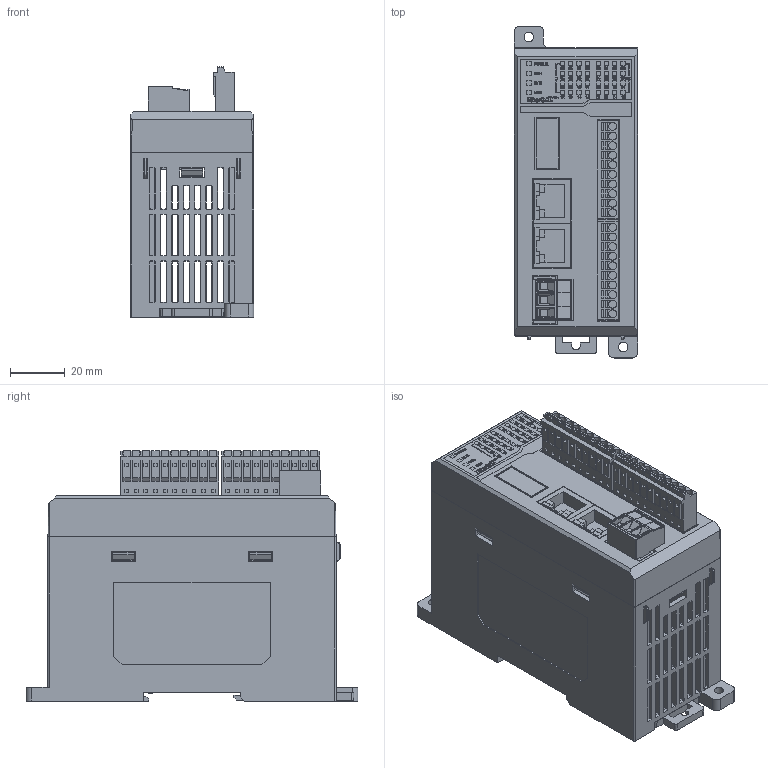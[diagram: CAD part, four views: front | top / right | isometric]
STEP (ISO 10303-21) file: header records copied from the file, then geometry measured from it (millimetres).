
FILE_DESCRIPTION((''),'2;1');
FILE_NAME('RXEC_ASM','2023-07-21T14:50:57',('Lenovo'),(''),'CREO PARAMETRIC BY PTC INC, 2020033','CREO PARAMETRIC BY PTC INC, 2020033','');
FILE_SCHEMA(('CONFIG_CONTROL_DESIGN'));
Products named in the file (21): BASE; COVER; PCB-M-01; DIANYUANCHAZUO; RJ45-HR913550A; ERD10X10; CBT-0810XXF-52-20PIN; WF12506-03200; PCB-M-01_ASM; PCB-M-02; 15EDGRC-3-5-10PIN; PCB-M-02_ASM; PCB-LED; LED; CBT-0810XXM-52-20PIN; PCB-LED_ASM; KAKOU-105; DENGGAI; 00; WJ15EDGKN-3R5-XXP-1YY-00A; RXEC_ASM
Assembly tree (59 placements, depth 3):
  RXEC_ASM
    BASE
    COVER
    PCB-M-01_ASM
      PCB-M-01
      DIANYUANCHAZUO
      RJ45-HR913550A  x2
      ERD10X10  x2
      CBT-0810XXF-52-20PIN
      WF12506-03200
    PCB-M-02_ASM
      PCB-M-02
      15EDGRC-3-5-10PIN  x2
    PCB-LED_ASM
      PCB-LED
      LED  x36
      CBT-0810XXM-52-20PIN
    KAKOU-105
    DENGGAI
    00
    WJ15EDGKN-3R5-XXP-1YY-00A  x2
Bounding box: 45 x 121 x 91.2 mm (x, y, z)
Volume: 105325 mm3; surface area: 122996.4 mm2
Topology: 56 solids, 56 shells, 7990 faces, 21588 edges, 14258 vertices
Faces by surface type: plane 6053, extrusion 1040, cylinder 622, bspline 182, cone 53, torus 28, sphere 12
Entity records: 207257 total; most frequent: CARTESIAN_POINT 51383, ORIENTED_EDGE 34278, DIRECTION 27112, EDGE_CURVE 17139, VECTOR 14462, LINE 13422, VERTEX_POINT 11316, EDGE_LOOP 7029
